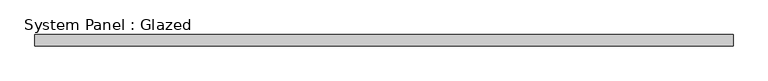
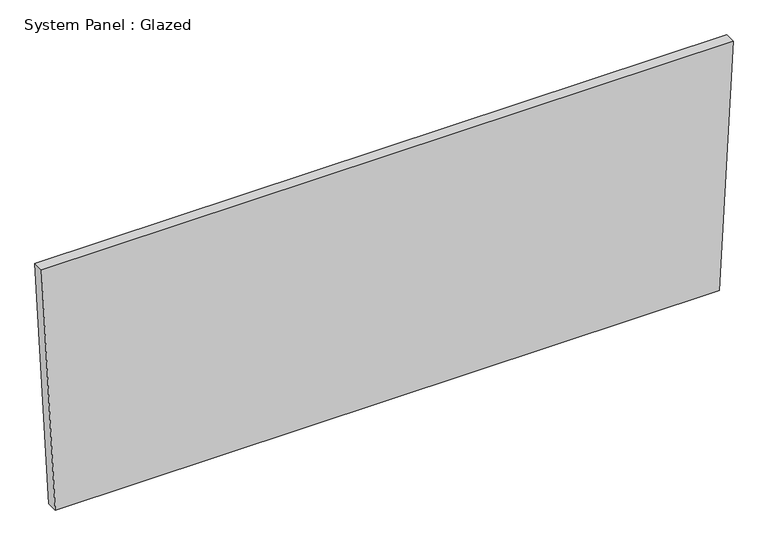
"""IFC4 building model written with IfcOpenShell, lengths in millimetres: plate geometry, System Panel : Glazed."""

from ifc_helpers import new_model, si_unit, frame, origin, place, context, project, spatial, polyline, outline, extrude, source, transform, mapped, element, save


def system_panel_glazed_270d951d(model_context):
    return source(origin(), model_context, "Body", "SweptSolid", [
        extrude(outline(polyline([(0.0, -748.285638), (0.0, 748.285638), (583.3481362, 779.1573671), (583.3481362, -779.1573671), (0.0, -748.285638)])), frame((0.0, -44.45, 0.0), z_axis=(0.0, 1.0, 0.0), x_axis=(0.0, 0.0, 1.0)), (0.0, 0.0, 1.0), 25.4),
    ])


if __name__ == "__main__":
    model = new_model("IFC4")
    model_context = context("Model", 3, world=origin())
    ifc_project = project(units=[si_unit("LENGTHUNIT", "METRE", prefix="MILLI")], contexts=[model_context])
    site = spatial("IfcSite", under=ifc_project)
    building = spatial("IfcBuilding", under=site)
    placement = place(None, origin())
    system_panel_glazed_shape = system_panel_glazed_270d951d(model_context)
    element("IfcPlate", 1, ObjectType="System Panel : Glazed", at=placement, inside=building, context=model_context, shape_type="MappedRepresentation", body=[
        mapped(system_panel_glazed_shape, transform((0.0, 0.0, 0.0), x_axis=(1.0, 0.0, 0.0), y_axis=(0.0, 1.0, 0.0), z_axis=(0.0, 0.0, 1.0))),
    ])
    save(model, "model.ifc")
